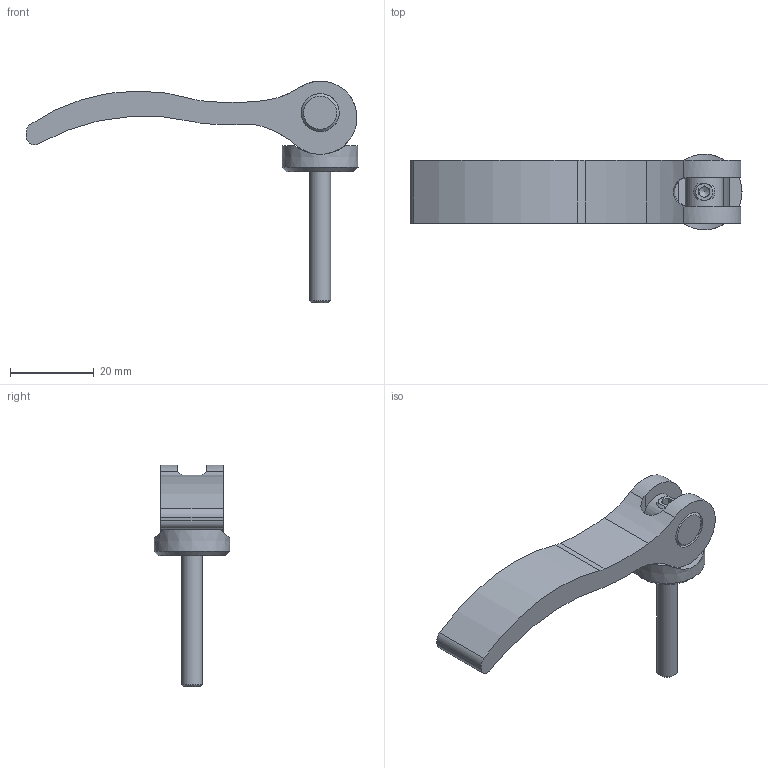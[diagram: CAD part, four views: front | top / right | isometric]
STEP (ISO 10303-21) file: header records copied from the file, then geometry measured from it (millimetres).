
FILE_DESCRIPTION(('STEP AP203'), '1');
FILE_NAME('À00360.11790520 _ Ýêñöåíòðèê 79 ìì', '', ('UNSPECIFIED'), ('UNSPECIFIED'), 'C3D Converter', 'C3D Toolkit', '');
FILE_SCHEMA(('CONFIG_CONTROL_DESIGN'));
Length unit declared in the file: millimetre
Products named in the file (5): А00360.79.03; А00360.79.02; А00360.79.01
Assembly tree (4 placements, depth 2):
  (unnamed)
    А00360.79.03
    А00360.79.02
    А00360.79.01
    (unnamed)
Bounding box: 79.33 x 18.07 x 53 mm (x, y, z)
Volume: 9991.1 mm3; surface area: 6360.9 mm2
Topology: 4 solids, 4 shells, 52 faces, 128 edges, 82 vertices
Faces by surface type: plane 24, cylinder 21, cone 7
Full cylindrical faces by diameter (mm): 4.134 x1, 5 x1, 6.6 x1, 9.1 x3
Entity records: 2375 total; most frequent: CARTESIAN_POINT 907, DIRECTION 269, ORIENTED_EDGE 228, EDGE_CURVE 114, AXIS2_PLACEMENT_3D 111, VERTEX_POINT 81, EDGE_LOOP 71, FACE_BOUND 54
